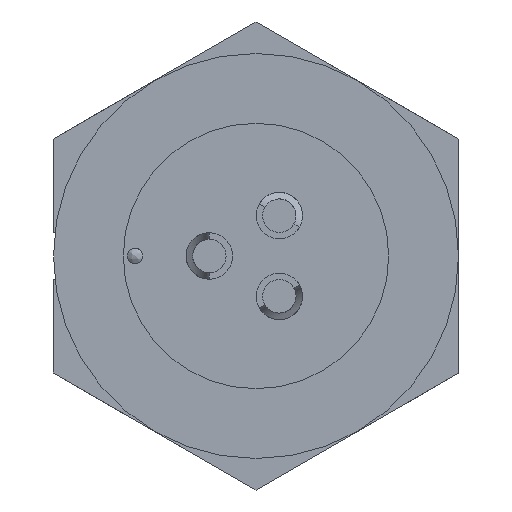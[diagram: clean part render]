
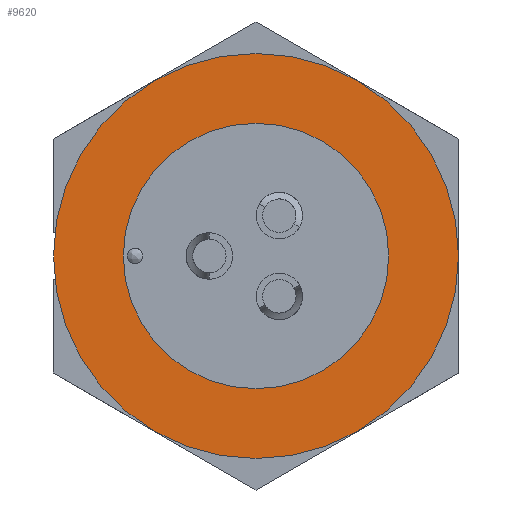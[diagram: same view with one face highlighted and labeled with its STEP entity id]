
A CAD part, left-side view. The second image highlights one B-rep face of the part: STEP entity #9620.
In plain terms, the highlighted planar face has unit normal (-1, 0, 0).
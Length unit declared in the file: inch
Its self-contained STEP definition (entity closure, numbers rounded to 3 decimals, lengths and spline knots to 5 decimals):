
#182 = AXIS2_PLACEMENT_3D ( 'NONE', #19065, #19044, #19014 ) ;
#713 = VERTEX_POINT ( 'NONE', #13516 ) ;
#951 = AXIS2_PLACEMENT_3D ( 'NONE', #9905, #9887, #9857 ) ;
#1227 = CIRCLE ( 'NONE', #24696, 0.406 ) ;
#1420 = DIRECTION ( 'NONE',  ( 0., 0., 1. ) ) ;
#1449 = DIRECTION ( 'NONE',  ( 1., 0., 0. ) ) ;
#1524 = CARTESIAN_POINT ( 'NONE',  ( -0.078, 0., 0. ) ) ;
#1869 = CIRCLE ( 'NONE', #5406, 0.406 ) ;
#2627 = ORIENTED_EDGE ( 'NONE', *, *, #5351, .T. ) ;
#2870 = CARTESIAN_POINT ( 'NONE',  ( -0.078, 0., 0.266 ) ) ;
#3023 = VERTEX_POINT ( 'NONE', #10379 ) ;
#3150 = ORIENTED_EDGE ( 'NONE', *, *, #25332, .T. ) ;
#4631 = EDGE_CURVE ( 'NONE', #5033, #3023, #24479, .T. ) ;
#5033 = VERTEX_POINT ( 'NONE', #2870 ) ;
#5131 = EDGE_LOOP ( 'NONE', ( #25378, #3150 ) ) ;
#5351 = EDGE_CURVE ( 'NONE', #713, #5390, #1227, .T. ) ;
#5390 = VERTEX_POINT ( 'NONE', #20046 ) ;
#5406 = AXIS2_PLACEMENT_3D ( 'NONE', #24275, #11833, #26370 ) ;
#6119 = EDGE_LOOP ( 'NONE', ( #2627, #21019 ) ) ;
#6571 = CIRCLE ( 'NONE', #6732, 0.266 ) ;
#6732 = AXIS2_PLACEMENT_3D ( 'NONE', #1524, #1449, #1420 ) ;
#9620 = ADVANCED_FACE ( 'NONE', ( #22711, #22894 ), #19645, .T. ) ;
#9857 = DIRECTION ( 'NONE',  ( 0., 0., 1. ) ) ;
#9887 = DIRECTION ( 'NONE',  ( 1., 0., 0. ) ) ;
#9905 = CARTESIAN_POINT ( 'NONE',  ( -0.078, 0., 0. ) ) ;
#10379 = CARTESIAN_POINT ( 'NONE',  ( -0.078, 0., -0.266 ) ) ;
#11833 = DIRECTION ( 'NONE',  ( -1., 0., 0. ) ) ;
#13516 = CARTESIAN_POINT ( 'NONE',  ( -0.078, 0., -0.406 ) ) ;
#19014 = DIRECTION ( 'NONE',  ( 0., 0., 1. ) ) ;
#19044 = DIRECTION ( 'NONE',  ( -1., 0., 0. ) ) ;
#19065 = CARTESIAN_POINT ( 'NONE',  ( -0.078, 0., 0. ) ) ;
#19645 = PLANE ( 'NONE',  #182 ) ;
#20046 = CARTESIAN_POINT ( 'NONE',  ( -0.078, 0., 0.406 ) ) ;
#20079 = DIRECTION ( 'NONE',  ( 0., 0., -1. ) ) ;
#20132 = DIRECTION ( 'NONE',  ( -1., 0., 0. ) ) ;
#20160 = CARTESIAN_POINT ( 'NONE',  ( -0.078, 0., 0. ) ) ;
#21019 = ORIENTED_EDGE ( 'NONE', *, *, #26654, .T. ) ;
#22711 = FACE_BOUND ( 'NONE', #5131, .T. ) ;
#22894 = FACE_OUTER_BOUND ( 'NONE', #6119, .T. ) ;
#24275 = CARTESIAN_POINT ( 'NONE',  ( -0.078, 0., 0. ) ) ;
#24479 = CIRCLE ( 'NONE', #951, 0.266 ) ;
#24696 = AXIS2_PLACEMENT_3D ( 'NONE', #20160, #20132, #20079 ) ;
#25332 = EDGE_CURVE ( 'NONE', #3023, #5033, #6571, .T. ) ;
#25378 = ORIENTED_EDGE ( 'NONE', *, *, #4631, .T. ) ;
#26370 = DIRECTION ( 'NONE',  ( 0., 0., -1. ) ) ;
#26654 = EDGE_CURVE ( 'NONE', #5390, #713, #1869, .T. ) ;
